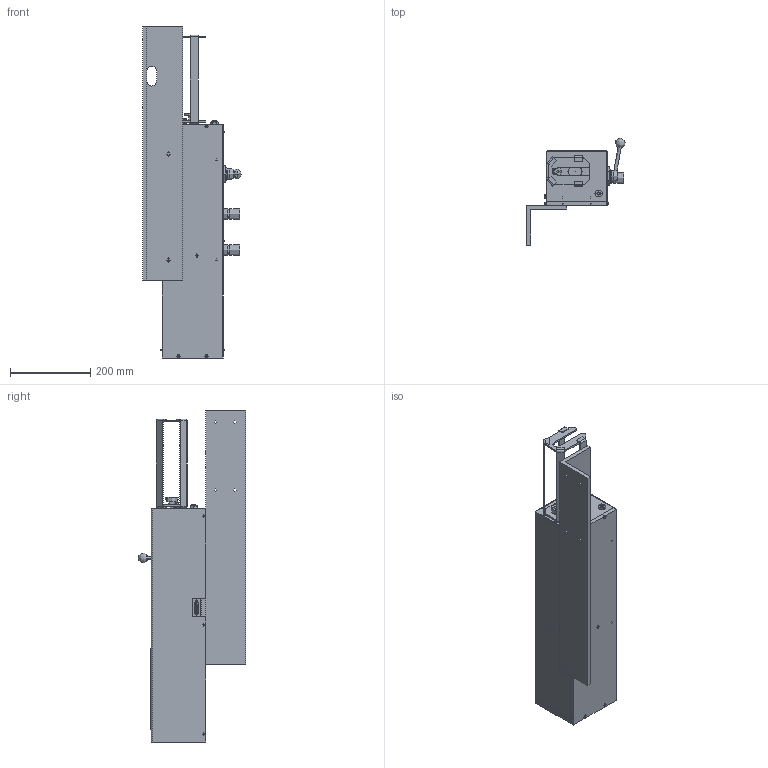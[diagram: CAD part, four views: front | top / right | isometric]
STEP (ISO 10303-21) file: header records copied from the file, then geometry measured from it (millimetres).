
FILE_DESCRIPTION(/* description */ (''),/* implementation_level */ '2;1');
FILE_NAME(/* name */ 'A:\3D Projects\3D Standard Parts\1845696 MM31 400ml Dual Cartridge Dispenser With Low Level\1845696 MM31 400ml Dual Cartridge Dispenser With Low Level.stp',/* time_stamp */ '2013-10-02T11:18:58-04:00',/* author */ ('patch'),/* organization */ (''),/* preprocessor_version */ 'ST-DEVELOPER v15.2',/* originating_system */ 'Autodesk Inventor 2014',/* authorisation */ '');
FILE_SCHEMA (('AUTOMOTIVE_DESIGN { 1 0 10303 214 3 1 1 }'));
Products named in the file (45): 8958978 CACP95SDB32200W0; 8958979 RODA_CP95SDB32200W0; 8958977 A_CP95SDB32200W0_ASM; 8959109 Reed Switch; 8958807 KQ2L04G01; 8958806 Hand Lever Valve; 8959262 AS2211F0204A; 8958808 KQ2L04G02; 8958815 KQ2T0400; 8959248 Cylinder Mounting Plate; 8959249 Cartridge Holder Mounting Plate; 8957817 Screw, DIN 7991 M6X40; 8959247 Cylinder Encoder Plate; 8980113 Screw, ISO4762-M6x20; 8959253 Linear Encoder Indicator; 8903590 Helical Spring Lock Washer; 8963041 Hexagon Nut, DIN555 - M10; 8959244 400ml Cartridge Holder; 8954434 Washer DIN125 A 5.3; 8954566 Screw, ISO 4762-M5x16; 8959258 B Pusher Disc 10 to 1; 8959252 B Pusher Disc 2 to 1; 8950703 Screw ISO 4762-M4x20; 8959259 Small Pusher Disc 2 to 1; 8959251 A Pusher Disc 2 to 1; 8958256 Base Plate; 8959305 L Bracket; 8952295 Screw, ISO 4762-M3x8; 8957378 Sub D 15 pin Plug wo Cover; 8958886 Screw UNC 4-40, Lg 9,7 mm; 8959306 Printed Circuit Board; 8959254 Back Plate; 8962201 Screw, ISO4762-M5x12; 8959255 Sheet Metal Cover; 8959243 Low Level Scale Artwork; 8958257 Product ID Artwork; 8958812 AR20F01H_K81040; 8959126 KQ2E0600_BODY_KQ; 8959125 KQ2E0600_NUT_KQ; 8959124 KQ2E0600A_ASM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
Bounding box: 246.52 x 268.31 x 830 mm (x, y, z)
Volume: 4598033.6 mm3; surface area: 1548823 mm2
Topology: 85 solids, 86 shells, 4992 faces, 12894 edges, 8464 vertices
Faces by surface type: plane 3577, cylinder 656, bspline 508, cone 187, torus 52, sphere 12
Full cylindrical faces by diameter (mm): 1.016 x15, 1.64 x15, 2.3 x2, 2.347 x2, 2.5 x10, 2.7 x4, 3 x12, 3.1 x2, 3.2 x2, 3.3 x2, 3.5 x6, 4 x21, 4.2 x11, 4.773 x16, 4.8 x1, 5 x24, 5.3 x9, 5.5 x18, 6 x16, 6.4 x2, 6.5 x20, 6.8 x2, 7 x8, 7.2 x2, 7.366 x8, 7.7 x1, 7.8 x4, 8 x6, 8.2 x2, 8.4 x6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
Entity records: 130023 total; most frequent: CARTESIAN_POINT 32269, ORIENTED_EDGE 20302, DIRECTION 17186, EDGE_CURVE 10151, LINE 7962, VECTOR 7962, VERTEX_POINT 6905, EDGE_LOOP 4702
